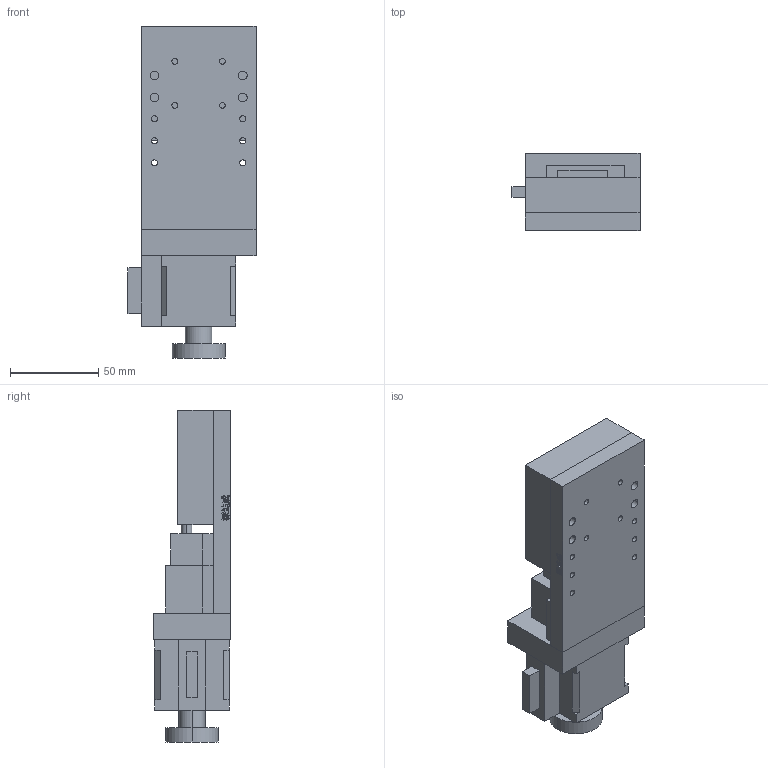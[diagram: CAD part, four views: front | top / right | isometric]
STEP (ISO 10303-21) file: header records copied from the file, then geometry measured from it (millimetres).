
FILE_DESCRIPTION (( 'STEP AP203' ), '1' );
FILE_NAME ('PP110- 15.STEP', '2022-08-21T08:02:32', ( '' ), ( '' ), 'SwSTEP 2.0', 'SolidWorks 2020', '' );
FILE_SCHEMA (( 'CONFIG_CONTROL_DESIGN' ));
Length unit declared in the file: millimetre
Products named in the file (7): 錨璃7^PP110-15; 錨璃6^PP110-15; 錨璃9^PP110-15; 錨璃8^PP110-15; 錨璃5^PP110-15; PP110- 15; 錨璃4^PP110-15
Assembly tree (6 placements, depth 2):
  PP110- 15
    錨璃4^PP110-15
    錨璃5^PP110-15
    錨璃6^PP110-15
    錨璃7^PP110-15
    錨璃8^PP110-15
    錨璃9^PP110-15
Bounding box: 72.5 x 44 x 188 mm (x, y, z)
Volume: 330464.1 mm3; surface area: 72713.5 mm2
Topology: 6 solids, 6 shells, 379 faces, 985 edges, 625 vertices
Faces by surface type: plane 181, cylinder 84, bspline 76, cone 38
Entity records: 15154 total; most frequent: CARTESIAN_POINT 5652, ORIENTED_EDGE 1894, DIRECTION 1587, EDGE_CURVE 947, VECTOR 627, LINE 627, VERTEX_POINT 625, AXIS2_PLACEMENT_3D 480
